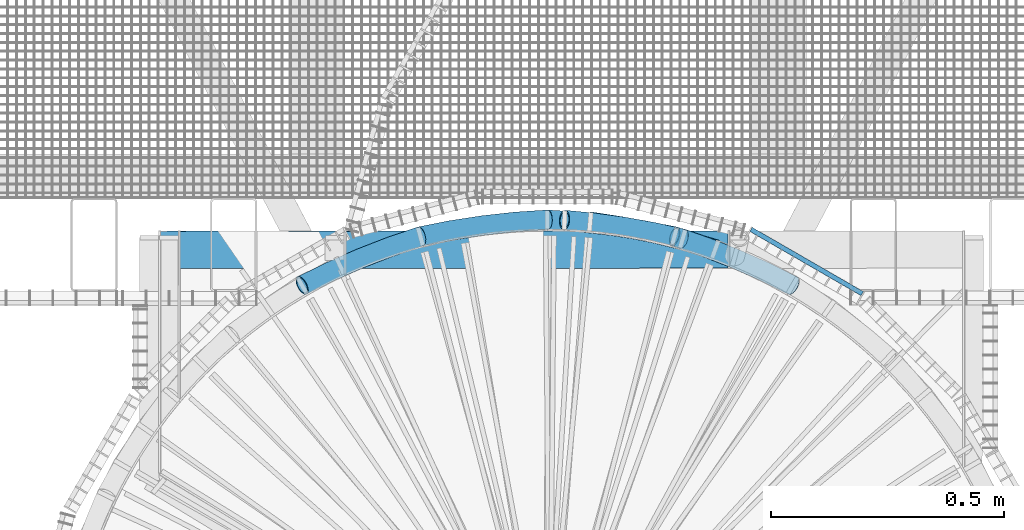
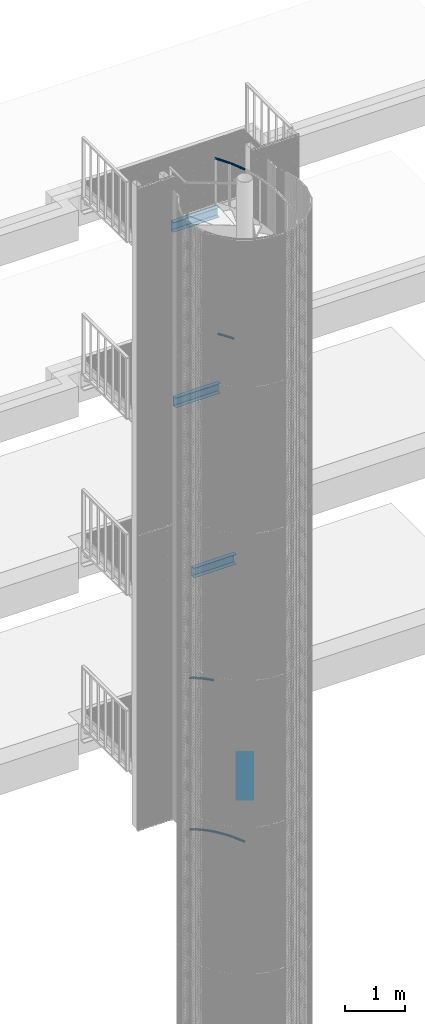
# One storey, part 331 of 1183: 36 beams, 9 members, 13 elements without a shape of their own.
"""IFC2X3 building model written with IfcOpenShell, lengths in millimetres."""

from ifc_helpers import new_model, entity, si_unit, frame, origin_with_axes, origin_2d_with_axis, place, context, subcontext, project, spatial, rectangle, u_section, extrude, material, type_object, element, aggregate, save


model = new_model("IFC2X3")

# Units and contexts
model_context = context("Model", 3, precision=1e-05, world=origin_with_axes())
body_context = subcontext(model_context, "Body", "Model", "MODEL_VIEW")
ifc_project = project(units=[si_unit("LENGTHUNIT", "METRE", prefix="MILLI"), si_unit("AREAUNIT", "SQUARE_METRE"), si_unit("VOLUMEUNIT", "CUBIC_METRE"), si_unit("MASSUNIT", "GRAM", prefix="KILO"), si_unit("TIMEUNIT", "SECOND"), si_unit("PLANEANGLEUNIT", "RADIAN"), si_unit("SOLIDANGLEUNIT", "STERADIAN"), si_unit("THERMODYNAMICTEMPERATUREUNIT", "DEGREE_CELSIUS"), si_unit("LUMINOUSINTENSITYUNIT", "LUMEN")], contexts=[model_context])

# Site, building, storey
site_placement = place(None, origin_with_axes())
site = spatial("IfcSite", under=ifc_project, at=site_placement, Name="Undefined", CompositionType="ELEMENT")
building_placement = place(site_placement, origin_with_axes())
building = spatial("IfcBuilding", under=site, at=building_placement, Name="Undefined", CompositionType="ELEMENT")
storey_placement = place(building_placement, origin_with_axes())
storey = spatial("IfcBuildingStorey", under=building, at=storey_placement, Name="Undefined", CompositionType="ELEMENT", Elevation=0.0)

# Assembly, beams
assembly_1_placement = place(storey_placement, origin_with_axes())
assembly_1 = element("IfcElementAssembly", 1, at=assembly_1_placement, inside=storey, Name="BORDURE", AssemblyPlace="NOTDEFINED", PredefinedType="NOTDEFINED")
ifc_material_1 = material(Name="STEEL/S235JR")
beam_type_1 = type_object("IfcBeamType", Name="PL2*10", PredefinedType="NOTDEFINED")
beam_1_placement = place(assembly_1_placement, frame((676.248044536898, 895.303964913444, 5970.0), z_axis=(0.49999999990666, 0.866025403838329, 0.0), x_axis=(-0.866025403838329, 0.499999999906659, 0.0)))
beam_1 = element("IfcBeam", 2, at=beam_1_placement, type_object=beam_type_1, material=ifc_material_1, Name="ENTRETOISE", context=body_context, shape_type="SweptSolid", body=[
    extrude(rectangle(XDim=2.0, YDim=10.0, at=origin_2d_with_axis()), frame((275.999999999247, 9.09494701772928e-13, 1.53210777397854e-14), z_axis=(-1.0, 0.0, 0.0), x_axis=(0.0, -1.0, 0.0)), (0.0, 0.0, 1.0), 276.0),
])
beam_2_placement = place(assembly_1_placement, frame((676.248044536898, 895.303964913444, 5940.0), z_axis=(0.49999999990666, 0.866025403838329, 0.0), x_axis=(-0.866025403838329, 0.499999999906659, 0.0)))
beam_2 = element("IfcBeam", 3, at=beam_2_placement, type_object=beam_type_1, material=ifc_material_1, Name="ENTRETOISE", context=body_context, shape_type="SweptSolid", body=[
    extrude(rectangle(XDim=2.0, YDim=10.0, at=origin_2d_with_axis()), frame((275.999999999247, 9.09494701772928e-13, 1.53210777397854e-14), z_axis=(-1.0, 0.0, 0.0), x_axis=(0.0, -1.0, 0.0)), (0.0, 0.0, 1.0), 276.0),
])
beam_3_placement = place(assembly_1_placement, frame((676.248044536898, 895.303964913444, 5910.0), z_axis=(0.49999999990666, 0.866025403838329, 0.0), x_axis=(-0.866025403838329, 0.499999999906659, 0.0)))
beam_3 = element("IfcBeam", 4, at=beam_3_placement, type_object=beam_type_1, material=ifc_material_1, Name="ENTRETOISE", context=body_context, shape_type="SweptSolid", body=[
    extrude(rectangle(XDim=2.0, YDim=10.0, at=origin_2d_with_axis()), frame((275.999999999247, 9.09494701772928e-13, 1.53210777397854e-14), z_axis=(-1.0, 0.0, 0.0), x_axis=(0.0, -1.0, 0.0)), (0.0, 0.0, 1.0), 276.0),
])
beam_4_placement = place(assembly_1_placement, frame((676.248044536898, 895.303964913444, 5880.0), z_axis=(0.49999999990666, 0.866025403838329, 0.0), x_axis=(-0.866025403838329, 0.499999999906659, 0.0)))
beam_4 = element("IfcBeam", 5, at=beam_4_placement, type_object=beam_type_1, material=ifc_material_1, Name="ENTRETOISE", context=body_context, shape_type="SweptSolid", body=[
    extrude(rectangle(XDim=2.0, YDim=10.0, at=origin_2d_with_axis()), frame((275.999999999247, 9.09494701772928e-13, 1.53210777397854e-14), z_axis=(-1.0, 0.0, 0.0), x_axis=(0.0, -1.0, 0.0)), (0.0, 0.0, 1.0), 276.0),
])
beam_5_placement = place(assembly_1_placement, frame((676.248044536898, 895.303964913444, 5850.0), z_axis=(0.49999999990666, 0.866025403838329, 0.0), x_axis=(-0.866025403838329, 0.499999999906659, 0.0)))
beam_5 = element("IfcBeam", 6, at=beam_5_placement, type_object=beam_type_1, material=ifc_material_1, Name="ENTRETOISE", context=body_context, shape_type="SweptSolid", body=[
    extrude(rectangle(XDim=2.0, YDim=10.0, at=origin_2d_with_axis()), frame((275.999999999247, 9.09494701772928e-13, 1.53210777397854e-14), z_axis=(-1.0, 0.0, 0.0), x_axis=(0.0, -1.0, 0.0)), (0.0, 0.0, 1.0), 276.0),
])
beam_6_placement = place(assembly_1_placement, frame((676.248044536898, 895.303964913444, 5820.0), z_axis=(0.49999999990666, 0.866025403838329, 0.0), x_axis=(-0.866025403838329, 0.499999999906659, 0.0)))
beam_6 = element("IfcBeam", 7, at=beam_6_placement, type_object=beam_type_1, material=ifc_material_1, Name="ENTRETOISE", context=body_context, shape_type="SweptSolid", body=[
    extrude(rectangle(XDim=2.0, YDim=10.0, at=origin_2d_with_axis()), frame((275.999999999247, 9.09494701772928e-13, 1.53210777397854e-14), z_axis=(-1.0, 0.0, 0.0), x_axis=(0.0, -1.0, 0.0)), (0.0, 0.0, 1.0), 276.0),
])
beam_7_placement = place(assembly_1_placement, frame((676.248044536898, 895.303964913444, 5790.0), z_axis=(0.49999999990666, 0.866025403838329, 0.0), x_axis=(-0.866025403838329, 0.499999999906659, 0.0)))
beam_7 = element("IfcBeam", 8, at=beam_7_placement, type_object=beam_type_1, material=ifc_material_1, Name="ENTRETOISE", context=body_context, shape_type="SweptSolid", body=[
    extrude(rectangle(XDim=2.0, YDim=10.0, at=origin_2d_with_axis()), frame((275.999999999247, 9.09494701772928e-13, 1.53210777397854e-14), z_axis=(-1.0, 0.0, 0.0), x_axis=(0.0, -1.0, 0.0)), (0.0, 0.0, 1.0), 276.0),
])
beam_8_placement = place(assembly_1_placement, frame((676.248044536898, 895.303964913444, 5760.0), z_axis=(0.49999999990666, 0.866025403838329, 0.0), x_axis=(-0.866025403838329, 0.499999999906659, 0.0)))
beam_8 = element("IfcBeam", 9, at=beam_8_placement, type_object=beam_type_1, material=ifc_material_1, Name="ENTRETOISE", context=body_context, shape_type="SweptSolid", body=[
    extrude(rectangle(XDim=2.0, YDim=10.0, at=origin_2d_with_axis()), frame((275.999999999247, 9.09494701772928e-13, 1.53210777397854e-14), z_axis=(-1.0, 0.0, 0.0), x_axis=(0.0, -1.0, 0.0)), (0.0, 0.0, 1.0), 276.0),
])
beam_9_placement = place(assembly_1_placement, frame((676.248044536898, 895.303964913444, 5730.0), z_axis=(0.49999999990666, 0.866025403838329, 0.0), x_axis=(-0.866025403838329, 0.499999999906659, 0.0)))
beam_9 = element("IfcBeam", 10, at=beam_9_placement, type_object=beam_type_1, material=ifc_material_1, Name="ENTRETOISE", context=body_context, shape_type="SweptSolid", body=[
    extrude(rectangle(XDim=2.0, YDim=10.0, at=origin_2d_with_axis()), frame((275.999999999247, 9.09494701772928e-13, 1.53210777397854e-14), z_axis=(-1.0, 0.0, 0.0), x_axis=(0.0, -1.0, 0.0)), (0.0, 0.0, 1.0), 276.0),
])
beam_10_placement = place(assembly_1_placement, frame((676.248044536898, 895.303964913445, 5700.0), z_axis=(0.49999999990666, 0.866025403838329, 0.0), x_axis=(-0.866025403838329, 0.499999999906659, 0.0)))
beam_10 = element("IfcBeam", 11, at=beam_10_placement, type_object=beam_type_1, material=ifc_material_1, Name="ENTRETOISE", context=body_context, shape_type="SweptSolid", body=[
    extrude(rectangle(XDim=2.0, YDim=10.0, at=origin_2d_with_axis()), frame((275.999999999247, 9.09494701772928e-13, 1.53210777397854e-14), z_axis=(-1.0, 0.0, 0.0), x_axis=(0.0, -1.0, 0.0)), (0.0, 0.0, 1.0), 276.0),
])
beam_11_placement = place(assembly_1_placement, frame((676.248044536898, 895.303964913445, 5670.0), z_axis=(0.49999999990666, 0.866025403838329, 0.0), x_axis=(-0.866025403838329, 0.499999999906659, 0.0)))
beam_11 = element("IfcBeam", 12, at=beam_11_placement, type_object=beam_type_1, material=ifc_material_1, Name="ENTRETOISE", context=body_context, shape_type="SweptSolid", body=[
    extrude(rectangle(XDim=2.0, YDim=10.0, at=origin_2d_with_axis()), frame((275.999999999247, 9.09494701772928e-13, 1.53210777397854e-14), z_axis=(-1.0, 0.0, 0.0), x_axis=(0.0, -1.0, 0.0)), (0.0, 0.0, 1.0), 276.0),
])
beam_12_placement = place(assembly_1_placement, frame((676.248044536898, 895.303964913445, 5640.0), z_axis=(0.49999999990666, 0.866025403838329, 0.0), x_axis=(-0.866025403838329, 0.499999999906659, 0.0)))
beam_12 = element("IfcBeam", 13, at=beam_12_placement, type_object=beam_type_1, material=ifc_material_1, Name="ENTRETOISE", context=body_context, shape_type="SweptSolid", body=[
    extrude(rectangle(XDim=2.0, YDim=10.0, at=origin_2d_with_axis()), frame((275.999999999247, 9.09494701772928e-13, 1.53210777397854e-14), z_axis=(-1.0, 0.0, 0.0), x_axis=(0.0, -1.0, 0.0)), (0.0, 0.0, 1.0), 276.0),
])
beam_13_placement = place(assembly_1_placement, frame((676.248044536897, 895.303964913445, 5610.0), z_axis=(0.49999999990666, 0.866025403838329, 0.0), x_axis=(-0.866025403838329, 0.499999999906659, 0.0)))
beam_13 = element("IfcBeam", 14, at=beam_13_placement, type_object=beam_type_1, material=ifc_material_1, Name="ENTRETOISE", context=body_context, shape_type="SweptSolid", body=[
    extrude(rectangle(XDim=2.0, YDim=10.0, at=origin_2d_with_axis()), frame((275.999999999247, 9.09494701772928e-13, 1.53210777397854e-14), z_axis=(-1.0, 0.0, 0.0), x_axis=(0.0, -1.0, 0.0)), (0.0, 0.0, 1.0), 276.0),
])
beam_14_placement = place(assembly_1_placement, frame((676.248044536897, 895.303964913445, 5580.0), z_axis=(0.49999999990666, 0.866025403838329, 0.0), x_axis=(-0.866025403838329, 0.499999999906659, 0.0)))
beam_14 = element("IfcBeam", 15, at=beam_14_placement, type_object=beam_type_1, material=ifc_material_1, Name="ENTRETOISE", context=body_context, shape_type="SweptSolid", body=[
    extrude(rectangle(XDim=2.0, YDim=10.0, at=origin_2d_with_axis()), frame((275.999999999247, 9.09494701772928e-13, 1.53210777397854e-14), z_axis=(-1.0, 0.0, 0.0), x_axis=(0.0, -1.0, 0.0)), (0.0, 0.0, 1.0), 276.0),
])
beam_15_placement = place(assembly_1_placement, frame((676.248044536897, 895.303964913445, 5550.0), z_axis=(0.49999999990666, 0.866025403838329, 0.0), x_axis=(-0.866025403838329, 0.499999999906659, 0.0)))
beam_15 = element("IfcBeam", 16, at=beam_15_placement, type_object=beam_type_1, material=ifc_material_1, Name="ENTRETOISE", context=body_context, shape_type="SweptSolid", body=[
    extrude(rectangle(XDim=2.0, YDim=10.0, at=origin_2d_with_axis()), frame((275.999999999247, 9.09494701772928e-13, 1.53210777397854e-14), z_axis=(-1.0, 0.0, 0.0), x_axis=(0.0, -1.0, 0.0)), (0.0, 0.0, 1.0), 276.0),
])
beam_16_placement = place(assembly_1_placement, frame((676.248044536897, 895.303964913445, 5520.0), z_axis=(0.49999999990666, 0.866025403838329, 0.0), x_axis=(-0.866025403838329, 0.499999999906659, 0.0)))
beam_16 = element("IfcBeam", 17, at=beam_16_placement, type_object=beam_type_1, material=ifc_material_1, Name="ENTRETOISE", context=body_context, shape_type="SweptSolid", body=[
    extrude(rectangle(XDim=2.0, YDim=10.0, at=origin_2d_with_axis()), frame((275.999999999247, 9.09494701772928e-13, 1.53210777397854e-14), z_axis=(-1.0, 0.0, 0.0), x_axis=(0.0, -1.0, 0.0)), (0.0, 0.0, 1.0), 276.0),
])
beam_17_placement = place(assembly_1_placement, frame((676.248044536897, 895.303964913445, 5490.0), z_axis=(0.49999999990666, 0.866025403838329, 0.0), x_axis=(-0.866025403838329, 0.499999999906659, 0.0)))
beam_17 = element("IfcBeam", 18, at=beam_17_placement, type_object=beam_type_1, material=ifc_material_1, Name="ENTRETOISE", context=body_context, shape_type="SweptSolid", body=[
    extrude(rectangle(XDim=2.0, YDim=10.0, at=origin_2d_with_axis()), frame((275.999999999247, 9.09494701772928e-13, 1.53210777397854e-14), z_axis=(-1.0, 0.0, 0.0), x_axis=(0.0, -1.0, 0.0)), (0.0, 0.0, 1.0), 276.0),
])
beam_18_placement = place(assembly_1_placement, frame((676.248044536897, 895.303964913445, 5460.0), z_axis=(0.49999999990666, 0.866025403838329, 0.0), x_axis=(-0.866025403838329, 0.499999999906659, 0.0)))
beam_18 = element("IfcBeam", 19, at=beam_18_placement, type_object=beam_type_1, material=ifc_material_1, Name="ENTRETOISE", context=body_context, shape_type="SweptSolid", body=[
    extrude(rectangle(XDim=2.0, YDim=10.0, at=origin_2d_with_axis()), frame((275.999999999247, 9.09494701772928e-13, 1.53210777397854e-14), z_axis=(-1.0, 0.0, 0.0), x_axis=(0.0, -1.0, 0.0)), (0.0, 0.0, 1.0), 276.0),
])
beam_19_placement = place(assembly_1_placement, frame((676.248044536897, 895.303964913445, 5430.0), z_axis=(0.49999999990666, 0.866025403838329, 0.0), x_axis=(-0.866025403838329, 0.499999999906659, 0.0)))
beam_19 = element("IfcBeam", 20, at=beam_19_placement, type_object=beam_type_1, material=ifc_material_1, Name="ENTRETOISE", context=body_context, shape_type="SweptSolid", body=[
    extrude(rectangle(XDim=2.0, YDim=10.0, at=origin_2d_with_axis()), frame((275.999999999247, 9.09494701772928e-13, 1.53210777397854e-14), z_axis=(-1.0, 0.0, 0.0), x_axis=(0.0, -1.0, 0.0)), (0.0, 0.0, 1.0), 276.0),
])
beam_20_placement = place(assembly_1_placement, frame((676.248044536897, 895.303964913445, 5400.0), z_axis=(0.49999999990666, 0.866025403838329, 0.0), x_axis=(-0.866025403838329, 0.499999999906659, 0.0)))
beam_20 = element("IfcBeam", 21, at=beam_20_placement, type_object=beam_type_1, material=ifc_material_1, Name="ENTRETOISE", context=body_context, shape_type="SweptSolid", body=[
    extrude(rectangle(XDim=2.0, YDim=10.0, at=origin_2d_with_axis()), frame((275.999999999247, 9.09494701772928e-13, 1.53210777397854e-14), z_axis=(-1.0, 0.0, 0.0), x_axis=(0.0, -1.0, 0.0)), (0.0, 0.0, 1.0), 276.0),
])
beam_21_placement = place(assembly_1_placement, frame((676.248044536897, 895.303964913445, 5370.0), z_axis=(0.49999999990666, 0.866025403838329, 0.0), x_axis=(-0.866025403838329, 0.499999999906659, 0.0)))
beam_21 = element("IfcBeam", 22, at=beam_21_placement, type_object=beam_type_1, material=ifc_material_1, Name="ENTRETOISE", context=body_context, shape_type="SweptSolid", body=[
    extrude(rectangle(XDim=2.0, YDim=10.0, at=origin_2d_with_axis()), frame((275.999999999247, 9.09494701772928e-13, 1.53210777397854e-14), z_axis=(-1.0, 0.0, 0.0), x_axis=(0.0, -1.0, 0.0)), (0.0, 0.0, 1.0), 276.0),
])
beam_22_placement = place(assembly_1_placement, frame((676.248044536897, 895.303964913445, 5340.0), z_axis=(0.49999999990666, 0.866025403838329, 0.0), x_axis=(-0.866025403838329, 0.499999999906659, 0.0)))
beam_22 = element("IfcBeam", 23, at=beam_22_placement, type_object=beam_type_1, material=ifc_material_1, Name="ENTRETOISE", context=body_context, shape_type="SweptSolid", body=[
    extrude(rectangle(XDim=2.0, YDim=10.0, at=origin_2d_with_axis()), frame((275.999999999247, 9.09494701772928e-13, 1.53210777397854e-14), z_axis=(-1.0, 0.0, 0.0), x_axis=(0.0, -1.0, 0.0)), (0.0, 0.0, 1.0), 276.0),
])
beam_23_placement = place(assembly_1_placement, frame((676.248044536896, 895.303964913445, 5310.0), z_axis=(0.49999999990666, 0.866025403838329, 0.0), x_axis=(-0.866025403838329, 0.499999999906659, 0.0)))
beam_23 = element("IfcBeam", 24, at=beam_23_placement, type_object=beam_type_1, material=ifc_material_1, Name="ENTRETOISE", context=body_context, shape_type="SweptSolid", body=[
    extrude(rectangle(XDim=2.0, YDim=10.0, at=origin_2d_with_axis()), frame((275.999999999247, 9.09494701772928e-13, 1.53210777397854e-14), z_axis=(-1.0, 0.0, 0.0), x_axis=(0.0, -1.0, 0.0)), (0.0, 0.0, 1.0), 276.0),
])
beam_24_placement = place(assembly_1_placement, frame((676.248044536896, 895.303964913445, 5280.0), z_axis=(0.49999999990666, 0.866025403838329, 0.0), x_axis=(-0.866025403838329, 0.499999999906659, 0.0)))
beam_24 = element("IfcBeam", 25, at=beam_24_placement, type_object=beam_type_1, material=ifc_material_1, Name="ENTRETOISE", context=body_context, shape_type="SweptSolid", body=[
    extrude(rectangle(XDim=2.0, YDim=10.0, at=origin_2d_with_axis()), frame((275.999999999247, 9.09494701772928e-13, 1.53210777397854e-14), z_axis=(-1.0, 0.0, 0.0), x_axis=(0.0, -1.0, 0.0)), (0.0, 0.0, 1.0), 276.0),
])
beam_25_placement = place(assembly_1_placement, frame((676.248044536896, 895.303964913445, 5250.0), z_axis=(0.49999999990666, 0.866025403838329, 0.0), x_axis=(-0.866025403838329, 0.499999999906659, 0.0)))
beam_25 = element("IfcBeam", 26, at=beam_25_placement, type_object=beam_type_1, material=ifc_material_1, Name="ENTRETOISE", context=body_context, shape_type="SweptSolid", body=[
    extrude(rectangle(XDim=2.0, YDim=10.0, at=origin_2d_with_axis()), frame((275.999999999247, 9.09494701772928e-13, 1.53210777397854e-14), z_axis=(-1.0, 0.0, 0.0), x_axis=(0.0, -1.0, 0.0)), (0.0, 0.0, 1.0), 276.0),
])
beam_26_placement = place(assembly_1_placement, frame((676.248044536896, 895.303964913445, 5220.0), z_axis=(0.49999999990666, 0.866025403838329, 0.0), x_axis=(-0.866025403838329, 0.499999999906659, 0.0)))
beam_26 = element("IfcBeam", 27, at=beam_26_placement, type_object=beam_type_1, material=ifc_material_1, Name="ENTRETOISE", context=body_context, shape_type="SweptSolid", body=[
    extrude(rectangle(XDim=2.0, YDim=10.0, at=origin_2d_with_axis()), frame((275.999999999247, 9.09494701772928e-13, 1.53210777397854e-14), z_axis=(-1.0, 0.0, 0.0), x_axis=(0.0, -1.0, 0.0)), (0.0, 0.0, 1.0), 276.0),
])
beam_27_placement = place(assembly_1_placement, frame((676.248044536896, 895.303964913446, 5190.0), z_axis=(0.49999999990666, 0.866025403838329, 0.0), x_axis=(-0.866025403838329, 0.499999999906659, 0.0)))
beam_27 = element("IfcBeam", 28, at=beam_27_placement, type_object=beam_type_1, material=ifc_material_1, Name="ENTRETOISE", context=body_context, shape_type="SweptSolid", body=[
    extrude(rectangle(XDim=2.0, YDim=10.0, at=origin_2d_with_axis()), frame((275.999999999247, 9.09494701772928e-13, 1.53210777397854e-14), z_axis=(-1.0, 0.0, 0.0), x_axis=(0.0, -1.0, 0.0)), (0.0, 0.0, 1.0), 276.0),
])
beam_28_placement = place(assembly_1_placement, frame((676.248044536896, 895.303964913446, 5160.0), z_axis=(0.49999999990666, 0.866025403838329, 0.0), x_axis=(-0.866025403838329, 0.499999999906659, 0.0)))
beam_28 = element("IfcBeam", 29, at=beam_28_placement, type_object=beam_type_1, material=ifc_material_1, Name="ENTRETOISE", context=body_context, shape_type="SweptSolid", body=[
    extrude(rectangle(XDim=2.0, YDim=10.0, at=origin_2d_with_axis()), frame((275.999999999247, 9.09494701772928e-13, 1.53210777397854e-14), z_axis=(-1.0, 0.0, 0.0), x_axis=(0.0, -1.0, 0.0)), (0.0, 0.0, 1.0), 276.0),
])
beam_29_placement = place(assembly_1_placement, frame((676.248044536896, 895.303964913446, 5130.0), z_axis=(0.49999999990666, 0.866025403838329, 0.0), x_axis=(-0.866025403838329, 0.499999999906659, 0.0)))
beam_29 = element("IfcBeam", 30, at=beam_29_placement, type_object=beam_type_1, material=ifc_material_1, Name="ENTRETOISE", context=body_context, shape_type="SweptSolid", body=[
    extrude(rectangle(XDim=2.0, YDim=10.0, at=origin_2d_with_axis()), frame((275.999999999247, 9.09494701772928e-13, 1.53210777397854e-14), z_axis=(-1.0, 0.0, 0.0), x_axis=(0.0, -1.0, 0.0)), (0.0, 0.0, 1.0), 276.0),
])
beam_30_placement = place(assembly_1_placement, frame((676.248044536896, 895.303964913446, 5100.0), z_axis=(0.49999999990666, 0.866025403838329, 0.0), x_axis=(-0.866025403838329, 0.499999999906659, 0.0)))
beam_30 = element("IfcBeam", 31, at=beam_30_placement, type_object=beam_type_1, material=ifc_material_1, Name="ENTRETOISE", context=body_context, shape_type="SweptSolid", body=[
    extrude(rectangle(XDim=2.0, YDim=10.0, at=origin_2d_with_axis()), frame((275.999999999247, 9.09494701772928e-13, 1.53210777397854e-14), z_axis=(-1.0, 0.0, 0.0), x_axis=(0.0, -1.0, 0.0)), (0.0, 0.0, 1.0), 276.0),
])
beam_31_placement = place(assembly_1_placement, frame((676.248044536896, 895.303964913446, 5070.0), z_axis=(0.49999999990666, 0.866025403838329, 0.0), x_axis=(-0.866025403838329, 0.499999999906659, 0.0)))
beam_31 = element("IfcBeam", 32, at=beam_31_placement, type_object=beam_type_1, material=ifc_material_1, Name="ENTRETOISE", context=body_context, shape_type="SweptSolid", body=[
    extrude(rectangle(XDim=2.0, YDim=10.0, at=origin_2d_with_axis()), frame((275.999999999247, 9.09494701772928e-13, 1.53210777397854e-14), z_axis=(-1.0, 0.0, 0.0), x_axis=(0.0, -1.0, 0.0)), (0.0, 0.0, 1.0), 276.0),
])
beam_32_placement = place(assembly_1_placement, frame((676.248044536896, 895.303964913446, 5040.0), z_axis=(0.49999999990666, 0.866025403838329, 0.0), x_axis=(-0.866025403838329, 0.499999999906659, 0.0)))
beam_32 = element("IfcBeam", 33, at=beam_32_placement, type_object=beam_type_1, material=ifc_material_1, Name="ENTRETOISE", context=body_context, shape_type="SweptSolid", body=[
    extrude(rectangle(XDim=2.0, YDim=10.0, at=origin_2d_with_axis()), frame((275.999999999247, 9.09494701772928e-13, 1.53210777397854e-14), z_axis=(-1.0, 0.0, 0.0), x_axis=(0.0, -1.0, 0.0)), (0.0, 0.0, 1.0), 276.0),
])
beam_33_placement = place(assembly_1_placement, frame((676.248044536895, 895.303964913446, 5010.0), z_axis=(0.49999999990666, 0.866025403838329, 0.0), x_axis=(-0.866025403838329, 0.499999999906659, 0.0)))
beam_33 = element("IfcBeam", 34, at=beam_33_placement, type_object=beam_type_1, material=ifc_material_1, Name="ENTRETOISE", context=body_context, shape_type="SweptSolid", body=[
    extrude(rectangle(XDim=2.0, YDim=10.0, at=origin_2d_with_axis()), frame((275.999999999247, 9.09494701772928e-13, 1.53210777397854e-14), z_axis=(-1.0, 0.0, 0.0), x_axis=(0.0, -1.0, 0.0)), (0.0, 0.0, 1.0), 276.0),
])
aggregate(assembly_1, [beam_1, beam_2, beam_3, beam_4, beam_5, beam_6, beam_7, beam_8, beam_9, beam_10, beam_11, beam_12, beam_13, beam_14, beam_15, beam_16, beam_17, beam_18, beam_19, beam_20, beam_21, beam_22, beam_23, beam_24, beam_25, beam_26, beam_27, beam_28, beam_29, beam_30, beam_31, beam_32, beam_33])

# Assembly, member
assembly_2_placement = place(storey_placement, origin_with_axes())
assembly_2 = element("IfcElementAssembly", 35, at=assembly_2_placement, inside=storey, Name="MONTANT", AssemblyPlace="NOTDEFINED", PredefinedType="NOTDEFINED")
member_type = type_object("IfcMemberType", Name="TUBE-42.4*3.2", PredefinedType="NOTDEFINED")
member_1_placement = place(assembly_2_placement, frame((-272.795273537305, 1018.08582090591, 4653.96000000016), z_axis=(-0.382683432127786, 0.923879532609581, -1.50204414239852e-10), x_axis=(-0.805545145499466, -0.333667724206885, 0.489655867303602)))
member_1 = element("IfcMember", 36, at=member_1_placement, type_object=member_type, material=ifc_material_1, Name="MAIN_COURANTE", context=body_context, shape_type="SweptSolid", body=[
    entity("IfcRevolvedAreaSolid", entity("IfcCircleHollowProfileDef", "AREA", None, entity("IfcAxis2Placement2D", entity("IfcCartesianPoint", [0.0, 0.0]), entity("IfcDirection", [1.0, 0.0])), 21.200000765, 3.200000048), entity("IfcAxis2Placement3D", entity("IfcCartesianPoint", [315.568566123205, -9.09494701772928e-13, -1.31255851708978e-15]), entity("IfcDirection", [-0.997194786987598, -4.44488503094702e-18, 0.0748502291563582]), entity("IfcDirection", [0.0, -1.0, 0.0])), entity("IfcAxis1Placement", entity("IfcCartesianPoint", [0.0, -2108.0, 0.0]), entity("IfcDirection", [1.0, 0.0, 0.0])), 0.149840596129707),
])
aggregate(assembly_2, [member_1])

assembly_3_placement = place(storey_placement, origin_with_axes())
assembly_3 = element("IfcElementAssembly", 37, at=assembly_3_placement, inside=storey, Name="MONTANT", AssemblyPlace="NOTDEFINED", PredefinedType="NOTDEFINED")
member_2_placement = place(assembly_3_placement, frame((-3.90627974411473e-10, 1054.00000001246, 4499.44000000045), z_axis=(-0.130526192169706, 0.991444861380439, -6.66022970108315e-11), x_axis=(-0.864456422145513, -0.113807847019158, 0.489655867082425)))
member_2 = element("IfcMember", 38, at=member_2_placement, type_object=member_type, material=ifc_material_1, Name="MAIN_COURANTE", context=body_context, shape_type="SweptSolid", body=[
    entity("IfcRevolvedAreaSolid", entity("IfcCircleHollowProfileDef", "AREA", None, entity("IfcAxis2Placement2D", entity("IfcCartesianPoint", [0.0, 0.0]), entity("IfcDirection", [1.0, 0.0])), 21.200000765, 3.200000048), entity("IfcAxis2Placement3D", entity("IfcCartesianPoint", [315.568566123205, -9.09494701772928e-13, -1.31255851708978e-15]), entity("IfcDirection", [-0.997194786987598, -4.44488503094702e-18, 0.0748502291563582]), entity("IfcDirection", [0.0, -1.0, 0.0])), entity("IfcAxis1Placement", entity("IfcCartesianPoint", [0.0, -2108.0, 0.0]), entity("IfcDirection", [1.0, 0.0, 0.0])), 0.149840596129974),
])
aggregate(assembly_3, [member_2])

assembly_4_placement = place(storey_placement, origin_with_axes())
assembly_4 = element("IfcElementAssembly", 39, at=assembly_4_placement, inside=storey, Name="MONTANT", AssemblyPlace="NOTDEFINED", PredefinedType="NOTDEFINED")
member_3_placement = place(assembly_4_placement, frame((272.795273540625, 1018.08582091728, 4344.91999999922), z_axis=(0.130526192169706, 0.991444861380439, 6.66022970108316e-11), x_axis=(-0.864456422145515, 0.113807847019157, 0.489655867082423)))
member_3 = element("IfcMember", 40, at=member_3_placement, type_object=member_type, material=ifc_material_1, Name="MAIN_COURANTE", context=body_context, shape_type="SweptSolid", body=[
    entity("IfcRevolvedAreaSolid", entity("IfcCircleHollowProfileDef", "AREA", None, entity("IfcAxis2Placement2D", entity("IfcCartesianPoint", [0.0, 0.0]), entity("IfcDirection", [1.0, 0.0])), 21.200000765, 3.200000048), entity("IfcAxis2Placement3D", entity("IfcCartesianPoint", [315.568566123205, -9.09494701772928e-13, -1.31255851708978e-15]), entity("IfcDirection", [-0.997194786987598, -4.44488503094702e-18, 0.0748502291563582]), entity("IfcDirection", [0.0, -1.0, 0.0])), entity("IfcAxis1Placement", entity("IfcCartesianPoint", [0.0, -2108.0, 0.0]), entity("IfcDirection", [1.0, 0.0, 0.0])), 0.149840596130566),
])
aggregate(assembly_4, [member_3])

assembly_5_placement = place(storey_placement, origin_with_axes())
assembly_5 = element("IfcElementAssembly", 41, at=assembly_5_placement, inside=storey, Name="MONTANT", AssemblyPlace="NOTDEFINED", PredefinedType="NOTDEFINED")
member_4_placement = place(assembly_5_placement, frame((526.999999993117, 912.790775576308, 4190.39999999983), z_axis=(0.382683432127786, 0.923879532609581, 1.50203959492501e-10), x_axis=(-0.805545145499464, 0.333667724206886, 0.489655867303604)))
member_4 = element("IfcMember", 42, at=member_4_placement, type_object=member_type, material=ifc_material_1, Name="MAIN_COURANTE", context=body_context, shape_type="SweptSolid", body=[
    entity("IfcRevolvedAreaSolid", entity("IfcCircleHollowProfileDef", "AREA", None, entity("IfcAxis2Placement2D", entity("IfcCartesianPoint", [0.0, 0.0]), entity("IfcDirection", [1.0, 0.0])), 21.200000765, 3.200000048), entity("IfcAxis2Placement3D", entity("IfcCartesianPoint", [315.568566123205, -9.09494701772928e-13, -1.31255851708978e-15]), entity("IfcDirection", [-0.997194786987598, -4.44488503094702e-18, 0.0748502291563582]), entity("IfcDirection", [0.0, -1.0, 0.0])), entity("IfcAxis1Placement", entity("IfcCartesianPoint", [0.0, -2108.0, 0.0]), entity("IfcDirection", [1.0, 0.0, 0.0])), 0.149840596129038),
])
aggregate(assembly_5, [member_4])

assembly_6_placement = place(storey_placement, origin_with_axes())
assembly_6 = element("IfcElementAssembly", 43, at=assembly_6_placement, inside=storey, Name="MONTANT", AssemblyPlace="NOTDEFINED", PredefinedType="NOTDEFINED")
member_5_placement = place(assembly_6_placement, frame((360.48923106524, 990.436022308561, 14476.9200000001), z_axis=(0.216439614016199, 0.97629600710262, 3.63797880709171e-12), x_axis=(-0.848601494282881, 0.188130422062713, 0.494451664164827)))
member_5 = element("IfcMember", 44, at=member_5_placement, type_object=member_type, material=ifc_material_1, Name="MAIN_COURANTE", context=body_context, shape_type="SweptSolid", body=[
    entity("IfcRevolvedAreaSolid", entity("IfcCircleHollowProfileDef", "AREA", None, entity("IfcAxis2Placement2D", entity("IfcCartesianPoint", [0.0, 0.0]), entity("IfcDirection", [1.0, 0.0])), 21.200000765, 3.200000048), entity("IfcAxis2Placement3D", entity("IfcCartesianPoint", [316.552681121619, 9.09494701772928e-13, -1.82569453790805e-12]), entity("IfcDirection", [-0.997177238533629, 2.1263748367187e-18, 0.0750836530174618]), entity("IfcDirection", [0.0, -1.0, 0.0])), entity("IfcAxis1Placement", entity("IfcCartesianPoint", [0.0, -2108.0, 0.0]), entity("IfcDirection", [1.0, 0.0, 0.0])), 0.150308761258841),
])
aggregate(assembly_6, [member_5])

assembly_7_placement = place(storey_placement, origin_with_axes())
assembly_7 = element("IfcElementAssembly", 45, at=assembly_7_placement, inside=storey, Name="MONTANT", AssemblyPlace="NOTDEFINED", PredefinedType="NOTDEFINED")
member_6_placement = place(assembly_7_placement, frame((290.52177302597, 1013.16982750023, 18076.9200000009), z_axis=(0.156434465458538, 0.987688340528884, -3.20833350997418e-10), x_axis=(-0.843469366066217, 0.133592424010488, 0.520300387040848)))
member_6 = element("IfcMember", 46, at=member_6_placement, type_object=member_type, material=ifc_material_1, Name="MAIN_COURANTE", context=body_context, shape_type="SweptSolid", body=[
    entity("IfcRevolvedAreaSolid", entity("IfcCircleHollowProfileDef", "AREA", None, entity("IfcAxis2Placement2D", entity("IfcCartesianPoint", [0.0, 0.0]), entity("IfcDirection", [1.0, 0.0])), 21.200000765, 3.200000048), entity("IfcAxis2Placement3D", entity("IfcCartesianPoint", [300.826222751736, 9.26193911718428e-13, -2.55538133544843e-15]), entity("IfcDirection", [-0.997451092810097, -5.56582410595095e-17, 0.0713534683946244]), entity("IfcDirection", [0.0, -1.0, 0.0])), entity("IfcAxis1Placement", entity("IfcCartesianPoint", [0.0, -2108.0, 0.0]), entity("IfcDirection", [1.0, 0.0, 0.0])), 0.142828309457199),
])
aggregate(assembly_7, [member_6])

assembly_8_placement = place(storey_placement, origin_with_axes())
assembly_8 = element("IfcElementAssembly", 47, at=assembly_8_placement, inside=storey, Name="MONTANT", AssemblyPlace="NOTDEFINED", PredefinedType="NOTDEFINED")
member_7_placement = place(assembly_8_placement, frame((527.000000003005, 912.790775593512, 17920.3999999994), z_axis=(0.390731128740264, 0.920504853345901, -3.32816853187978e-10), x_axis=(-0.786095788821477, 0.333677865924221, 0.520300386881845)))
member_7 = element("IfcMember", 48, at=member_7_placement, type_object=member_type, material=ifc_material_1, Name="MAIN_COURANTE", context=body_context, shape_type="SweptSolid", body=[
    entity("IfcRevolvedAreaSolid", entity("IfcCircleHollowProfileDef", "AREA", None, entity("IfcAxis2Placement2D", entity("IfcCartesianPoint", [0.0, 0.0]), entity("IfcDirection", [1.0, 0.0])), 21.200000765, 3.200000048), entity("IfcAxis2Placement3D", entity("IfcCartesianPoint", [300.826222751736, 9.26193911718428e-13, -2.55538133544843e-15]), entity("IfcDirection", [-0.997451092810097, -5.56582410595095e-17, 0.0713534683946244]), entity("IfcDirection", [0.0, -1.0, 0.0])), entity("IfcAxis1Placement", entity("IfcCartesianPoint", [0.0, -2108.0, 0.0]), entity("IfcDirection", [1.0, 0.0, 0.0])), 0.142828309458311),
])
aggregate(assembly_8, [member_7])

assembly_9_placement = place(storey_placement, origin_with_axes())
assembly_9 = element("IfcElementAssembly", 49, at=assembly_9_placement, inside=storey, Name="MONTANT", AssemblyPlace="NOTDEFINED", PredefinedType="NOTDEFINED")
member_8_placement = place(assembly_9_placement, frame((-272.795273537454, 1018.085820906, 7746.52000000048), z_axis=(-0.382683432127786, 0.923879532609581, -1.50204414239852e-10), x_axis=(-0.803040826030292, -0.332630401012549, 0.494451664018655)))
member_8 = element("IfcMember", 50, at=member_8_placement, type_object=member_type, material=ifc_material_1, Name="MAIN_COURANTE", context=body_context, shape_type="SweptSolid", body=[
    entity("IfcRevolvedAreaSolid", entity("IfcCircleHollowProfileDef", "AREA", None, entity("IfcAxis2Placement2D", entity("IfcCartesianPoint", [0.0, 0.0]), entity("IfcDirection", [1.0, 0.0])), 21.200000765, 3.200000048), entity("IfcAxis2Placement3D", entity("IfcCartesianPoint", [316.552681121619, 9.09494701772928e-13, -1.82569453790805e-12]), entity("IfcDirection", [-0.997177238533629, 2.1263748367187e-18, 0.0750836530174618]), entity("IfcDirection", [0.0, -1.0, 0.0])), entity("IfcAxis1Placement", entity("IfcCartesianPoint", [0.0, -2108.0, 0.0]), entity("IfcDirection", [1.0, 0.0, 0.0])), 0.150308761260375),
])
aggregate(assembly_9, [member_8])

assembly_10_placement = place(storey_placement, origin_with_axes())
assembly_10 = element("IfcElementAssembly", 51, at=assembly_10_placement, inside=storey, Name="MONTANT", AssemblyPlace="NOTDEFINED", PredefinedType="NOTDEFINED")
member_9_placement = place(assembly_10_placement, frame((-2.95699464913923e-10, 1054.00000001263, 7590.00000000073), z_axis=(-0.130526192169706, 0.991444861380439, -6.66022970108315e-11), x_axis=(-0.861768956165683, -0.113454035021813, 0.494451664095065)))
member_9 = element("IfcMember", 52, at=member_9_placement, type_object=member_type, material=ifc_material_1, Name="MAIN_COURANTE", context=body_context, shape_type="SweptSolid", body=[
    entity("IfcRevolvedAreaSolid", entity("IfcCircleHollowProfileDef", "AREA", None, entity("IfcAxis2Placement2D", entity("IfcCartesianPoint", [0.0, 0.0]), entity("IfcDirection", [1.0, 0.0])), 21.200000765, 3.200000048), entity("IfcAxis2Placement3D", entity("IfcCartesianPoint", [316.552681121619, 9.09494701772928e-13, -1.82569453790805e-12]), entity("IfcDirection", [-0.997177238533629, 2.1263748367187e-18, 0.0750836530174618]), entity("IfcDirection", [0.0, -1.0, 0.0])), entity("IfcAxis1Placement", entity("IfcCartesianPoint", [0.0, -2108.0, 0.0]), entity("IfcDirection", [1.0, 0.0, 0.0])), 0.150308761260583),
])
aggregate(assembly_10, [member_9])

# Assembly, beam
assembly_11_placement = place(storey_placement, origin_with_axes())
assembly_11 = element("IfcElementAssembly", 53, at=assembly_11_placement, inside=storey, Name="TRAVERSE", AssemblyPlace="NOTDEFINED", PredefinedType="NOTDEFINED")
ifc_material_2 = material(Name="STEEL/S275JR")
beam_type_2 = type_object("IfcBeamType", Name="UPF-200*80*4", PredefinedType="NOTDEFINED")
beam_34_placement = place(assembly_11_placement, frame((61.9635344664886, 990.016164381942, 17185.8400016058), z_axis=(-0.000179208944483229, -1.40999956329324e-07, -0.999999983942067), x_axis=(-0.999999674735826, -0.000786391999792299, 0.000179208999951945)))
beam_34 = element("IfcBeam", 54, at=beam_34_placement, type_object=beam_type_2, material=ifc_material_2, Name="TRAVERSE", context=body_context, shape_type="SweptSolid", body=[
    extrude(u_section(Depth=200.0, FlangeWidth=80.0, WebThickness=4.0, FlangeThickness=4.0, at=origin_2d_with_axis()), frame((892.812628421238, 1.78184733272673e-16, 3.63797880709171e-12), z_axis=(-1.0, 0.0, 0.0), x_axis=(0.0, -1.0, 0.0)), (0.0, 0.0, 1.0), 892.81),
])
aggregate(assembly_11, [beam_34])

assembly_12_placement = place(storey_placement, origin_with_axes())
assembly_12 = element("IfcElementAssembly", 55, at=assembly_12_placement, inside=storey, Name="TRAVERSE", AssemblyPlace="NOTDEFINED", PredefinedType="NOTDEFINED")
beam_35_placement = place(assembly_12_placement, frame((83.0638582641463, 990.016164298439, 13585.8400016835), z_axis=(-0.000183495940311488, -1.47999951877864e-07, -0.999999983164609), x_axis=(-0.9999996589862, -0.000805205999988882, 0.000183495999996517)))
beam_35 = element("IfcBeam", 56, at=beam_35_placement, type_object=beam_type_2, material=ifc_material_2, Name="TRAVERSE", context=body_context, shape_type="SweptSolid", body=[
    extrude(u_section(Depth=200.0, FlangeWidth=80.0, WebThickness=4.0, FlangeThickness=4.0, at=origin_2d_with_axis()), frame((871.952635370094, 8.05073527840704e-17, -1.8190130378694e-12), z_axis=(-1.0, 0.0, 0.0), x_axis=(0.0, -1.0, 0.0)), (0.0, 0.0, 1.0), 871.95),
])
aggregate(assembly_12, [beam_35])

assembly_13_placement = place(storey_placement, origin_with_axes())
assembly_13 = element("IfcElementAssembly", 57, at=assembly_13_placement, inside=storey, Name="TRAVERSE", AssemblyPlace="NOTDEFINED", PredefinedType="NOTDEFINED")
beam_36_placement = place(assembly_13_placement, frame((387.96472907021, 990.016164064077, 9985.84000190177), z_axis=(-0.000195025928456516, -1.66999938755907e-07, -0.999999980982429), x_axis=(-0.99999961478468, -0.000855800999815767, 0.000195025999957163)))
beam_36 = element("IfcBeam", 58, at=beam_36_placement, type_object=beam_type_2, material=ifc_material_2, Name="TRAVERSE", context=body_context, shape_type="SweptSolid", body=[
    extrude(u_section(Depth=200.0, FlangeWidth=80.0, WebThickness=4.0, FlangeThickness=4.0, at=origin_2d_with_axis()), frame((820.402654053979, -2.59776690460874e-17, 0.0), z_axis=(-1.0, 0.0, 0.0), x_axis=(0.0, -1.0, 0.0)), (0.0, 0.0, 1.0), 820.4),
])
aggregate(assembly_13, [beam_36])

save(model, "model.ifc")
